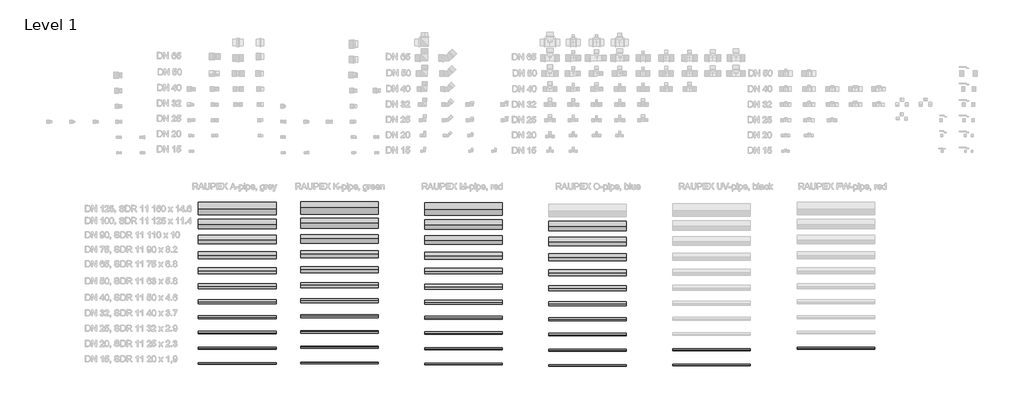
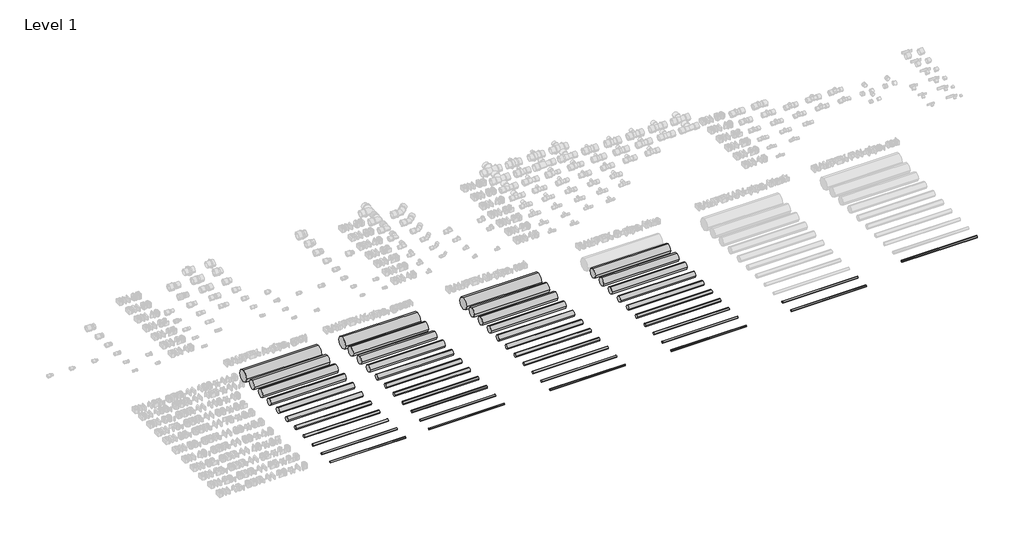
# One storey, part 1 of 15: 46 pipe segments.
"""IFC4 building model written with IfcOpenShell, lengths in millimetres."""

from ifc_helpers import new_model, si_unit, point, frame, frame_2d, origin, place, context, project, spatial, circle_curve, trimmed, segment, composite_curve, outline, extrude, element, save

model = new_model("IFC4")

# Units and contexts
model_context = context("Model", 3, world=origin())
ifc_project = project(units=[si_unit("LENGTHUNIT", "METRE", prefix="MILLI")], contexts=[model_context])

# Site, building, storey
site = spatial("IfcSite", under=ifc_project)
building = spatial("IfcBuilding", under=site)
storey = spatial("IfcBuildingStorey", under=building, Name="Level 1", Elevation=0.0)

# Pipe segments
placement = place(None, origin())
element("IfcPipeSegment", 1, ObjectType="RAUPEX-A Rohr, SDR11, grau bar", at=placement, inside=storey, context=model_context, shape_type="SweptSolid", body=[
    extrude(outline(composite_curve([segment(trimmed(circle_curve(frame_2d((-2300.9373535, 0.0)), 10.0), [point((-2310.9373535, 0.0))], [point((-2300.9373535, 10.0))], False, "CARTESIAN"), True, "CONTINUOUS"), segment(trimmed(circle_curve(frame_2d((-2300.9373535, 0.0)), 10.0), [point((-2300.9373535, 10.0))], [point((-2290.9373535, 0.0))], False, "CARTESIAN"), True, "CONTINUOUS"), segment(trimmed(circle_curve(frame_2d((-2300.9373535, 0.0)), 10.0), [point((-2290.9373535, 0.0))], [point((-2300.9373535, -10.0))], False, "CARTESIAN"), True, "CONTINUOUS"), segment(trimmed(circle_curve(frame_2d((-2300.9373535, 0.0)), 10.0), [point((-2300.9373535, -10.0))], [point((-2310.9373535, 0.0))], False, "CARTESIAN"), True, "CONTINUOUS")], self_intersect=False)), frame((11592.3595402, 0.0, 0.0), z_axis=(1.0, 0.0, 0.0), x_axis=(0.0, 1.0, 0.0)), (0.0, 0.0, 1.0), 1000.0),
])
element("IfcPipeSegment", 2, ObjectType="RAUPEX-A Rohr, SDR11, grau bar", at=placement, inside=storey, context=model_context, shape_type="SweptSolid", body=[
    extrude(outline(composite_curve([segment(trimmed(circle_curve(frame_2d((-2100.9373535, 0.0)), 12.5), [point((-2113.4373535, 0.0))], [point((-2100.9373535, 12.5))], False, "CARTESIAN"), True, "CONTINUOUS"), segment(trimmed(circle_curve(frame_2d((-2100.9373535, 0.0)), 12.5), [point((-2100.9373535, 12.5))], [point((-2088.4373535, 0.0))], False, "CARTESIAN"), True, "CONTINUOUS"), segment(trimmed(circle_curve(frame_2d((-2100.9373535, 0.0)), 12.5), [point((-2088.4373535, 0.0))], [point((-2100.9373535, -12.5))], False, "CARTESIAN"), True, "CONTINUOUS"), segment(trimmed(circle_curve(frame_2d((-2100.9373535, 0.0)), 12.5), [point((-2100.9373535, -12.5))], [point((-2113.4373535, 0.0))], False, "CARTESIAN"), True, "CONTINUOUS")], self_intersect=False)), frame((11592.3595402, 0.0, 0.0), z_axis=(1.0, 0.0, 0.0), x_axis=(0.0, 1.0, 0.0)), (0.0, 0.0, 1.0), 1000.0),
])
element("IfcPipeSegment", 3, ObjectType="RAUPEX-A Rohr, SDR11, grau bar", at=placement, inside=storey, context=model_context, shape_type="SweptSolid", body=[
    extrude(outline(composite_curve([segment(trimmed(circle_curve(frame_2d((-1900.9373535, 0.0)), 16.0), [point((-1916.9373535, 0.0))], [point((-1900.9373535, 16.0))], False, "CARTESIAN"), True, "CONTINUOUS"), segment(trimmed(circle_curve(frame_2d((-1900.9373535, 0.0)), 16.0), [point((-1900.9373535, 16.0))], [point((-1884.9373535, 0.0))], False, "CARTESIAN"), True, "CONTINUOUS"), segment(trimmed(circle_curve(frame_2d((-1900.9373535, 0.0)), 16.0), [point((-1884.9373535, 0.0))], [point((-1900.9373535, -16.0))], False, "CARTESIAN"), True, "CONTINUOUS"), segment(trimmed(circle_curve(frame_2d((-1900.9373535, 0.0)), 16.0), [point((-1900.9373535, -16.0))], [point((-1916.9373535, 0.0))], False, "CARTESIAN"), True, "CONTINUOUS")], self_intersect=False)), frame((11592.3595402, 0.0, 0.0), z_axis=(1.0, 0.0, 0.0), x_axis=(0.0, 1.0, 0.0)), (0.0, 0.0, 1.0), 1000.0),
])
element("IfcPipeSegment", 4, ObjectType="RAUPEX-A Rohr, SDR11, grau bar", at=placement, inside=storey, context=model_context, shape_type="SweptSolid", body=[
    extrude(outline(composite_curve([segment(trimmed(circle_curve(frame_2d((-1700.9373535, 0.0)), 20.0), [point((-1720.9373535, 0.0))], [point((-1700.9373535, 20.0))], False, "CARTESIAN"), True, "CONTINUOUS"), segment(trimmed(circle_curve(frame_2d((-1700.9373535, 0.0)), 20.0), [point((-1700.9373535, 20.0))], [point((-1680.9373535, 0.0))], False, "CARTESIAN"), True, "CONTINUOUS"), segment(trimmed(circle_curve(frame_2d((-1700.9373535, 0.0)), 20.0), [point((-1680.9373535, 0.0))], [point((-1700.9373535, -20.0))], False, "CARTESIAN"), True, "CONTINUOUS"), segment(trimmed(circle_curve(frame_2d((-1700.9373535, 0.0)), 20.0), [point((-1700.9373535, -20.0))], [point((-1720.9373535, 0.0))], False, "CARTESIAN"), True, "CONTINUOUS")], self_intersect=False)), frame((11592.3595402, 0.0, 0.0), z_axis=(1.0, 0.0, 0.0), x_axis=(0.0, 1.0, 0.0)), (0.0, 0.0, 1.0), 1000.0),
])
element("IfcPipeSegment", 5, ObjectType="RAUPEX-A Rohr, SDR11, grau bar", at=placement, inside=storey, context=model_context, shape_type="SweptSolid", body=[
    extrude(outline(composite_curve([segment(trimmed(circle_curve(frame_2d((-1500.9373535, 0.0)), 25.0), [point((-1525.9373535, 0.0))], [point((-1500.9373535, 25.0))], False, "CARTESIAN"), True, "CONTINUOUS"), segment(trimmed(circle_curve(frame_2d((-1500.9373535, 0.0)), 25.0), [point((-1500.9373535, 25.0))], [point((-1475.9373535, 0.0))], False, "CARTESIAN"), True, "CONTINUOUS"), segment(trimmed(circle_curve(frame_2d((-1500.9373535, 0.0)), 25.0), [point((-1475.9373535, 0.0))], [point((-1500.9373535, -25.0))], False, "CARTESIAN"), True, "CONTINUOUS"), segment(trimmed(circle_curve(frame_2d((-1500.9373535, 0.0)), 25.0), [point((-1500.9373535, -25.0))], [point((-1525.9373535, 0.0))], False, "CARTESIAN"), True, "CONTINUOUS")], self_intersect=False)), frame((11592.3595402, 0.0, 0.0), z_axis=(1.0, 0.0, 0.0), x_axis=(0.0, 1.0, 0.0)), (0.0, 0.0, 1.0), 1000.0),
])
element("IfcPipeSegment", 6, ObjectType="RAUPEX-A Rohr, SDR11, grau bar", at=placement, inside=storey, context=model_context, shape_type="SweptSolid", body=[
    extrude(outline(composite_curve([segment(trimmed(circle_curve(frame_2d((-1300.9373535, 0.0)), 31.5), [point((-1332.4373535, 0.0))], [point((-1300.9373535, 31.5))], False, "CARTESIAN"), True, "CONTINUOUS"), segment(trimmed(circle_curve(frame_2d((-1300.9373535, 0.0)), 31.5), [point((-1300.9373535, 31.5))], [point((-1269.4373535, 0.0))], False, "CARTESIAN"), True, "CONTINUOUS"), segment(trimmed(circle_curve(frame_2d((-1300.9373535, 0.0)), 31.5), [point((-1269.4373535, 0.0))], [point((-1300.9373535, -31.5))], False, "CARTESIAN"), True, "CONTINUOUS"), segment(trimmed(circle_curve(frame_2d((-1300.9373535, 0.0)), 31.5), [point((-1300.9373535, -31.5))], [point((-1332.4373535, 0.0))], False, "CARTESIAN"), True, "CONTINUOUS")], self_intersect=False)), frame((11592.3595402, 0.0, 0.0), z_axis=(1.0, 0.0, 0.0), x_axis=(0.0, 1.0, 0.0)), (0.0, 0.0, 1.0), 1000.0),
])
element("IfcPipeSegment", 7, ObjectType="RAUPEX-A Rohr, SDR11, grau bar", at=placement, inside=storey, context=model_context, shape_type="SweptSolid", body=[
    extrude(outline(composite_curve([segment(trimmed(circle_curve(frame_2d((-1100.9373535, 0.0)), 37.5), [point((-1138.4373535, 0.0))], [point((-1100.9373535, 37.5))], False, "CARTESIAN"), True, "CONTINUOUS"), segment(trimmed(circle_curve(frame_2d((-1100.9373535, 0.0)), 37.5), [point((-1100.9373535, 37.5))], [point((-1063.4373535, 0.0))], False, "CARTESIAN"), True, "CONTINUOUS"), segment(trimmed(circle_curve(frame_2d((-1100.9373535, 0.0)), 37.5), [point((-1063.4373535, 0.0))], [point((-1100.9373535, -37.5))], False, "CARTESIAN"), True, "CONTINUOUS"), segment(trimmed(circle_curve(frame_2d((-1100.9373535, 0.0)), 37.5), [point((-1100.9373535, -37.5))], [point((-1138.4373535, 0.0))], False, "CARTESIAN"), True, "CONTINUOUS")], self_intersect=False)), frame((11592.3595402, 0.0, 0.0), z_axis=(1.0, 0.0, 0.0), x_axis=(0.0, 1.0, 0.0)), (0.0, 0.0, 1.0), 1000.0),
])
element("IfcPipeSegment", 8, ObjectType="RAUPEX-A Rohr, SDR11, grau bar", at=placement, inside=storey, context=model_context, shape_type="SweptSolid", body=[
    extrude(outline(composite_curve([segment(trimmed(circle_curve(frame_2d((-900.9373535, 0.0)), 45.0), [point((-945.9373535, 0.0))], [point((-900.9373535, 45.0))], False, "CARTESIAN"), True, "CONTINUOUS"), segment(trimmed(circle_curve(frame_2d((-900.9373535, 0.0)), 45.0), [point((-900.9373535, 45.0))], [point((-855.9373535, 0.0))], False, "CARTESIAN"), True, "CONTINUOUS"), segment(trimmed(circle_curve(frame_2d((-900.9373535, 0.0)), 45.0), [point((-855.9373535, 0.0))], [point((-900.9373535, -45.0))], False, "CARTESIAN"), True, "CONTINUOUS"), segment(trimmed(circle_curve(frame_2d((-900.9373535, 0.0)), 45.0), [point((-900.9373535, -45.0))], [point((-945.9373535, 0.0))], False, "CARTESIAN"), True, "CONTINUOUS")], self_intersect=False)), frame((11592.3595402, 0.0, 0.0), z_axis=(1.0, 0.0, 0.0), x_axis=(0.0, 1.0, 0.0)), (0.0, 0.0, 1.0), 1000.0),
])
element("IfcPipeSegment", 9, ObjectType="RAUPEX-A Rohr, SDR11, grau bar", at=placement, inside=storey, context=model_context, shape_type="SweptSolid", body=[
    extrude(outline(composite_curve([segment(trimmed(circle_curve(frame_2d((-700.9373535, 0.0)), 55.0), [point((-755.9373535, 0.0))], [point((-700.9373535, 55.0))], False, "CARTESIAN"), True, "CONTINUOUS"), segment(trimmed(circle_curve(frame_2d((-700.9373535, 0.0)), 55.0), [point((-700.9373535, 55.0))], [point((-645.9373535, 0.0))], False, "CARTESIAN"), True, "CONTINUOUS"), segment(trimmed(circle_curve(frame_2d((-700.9373535, 0.0)), 55.0), [point((-645.9373535, 0.0))], [point((-700.9373535, -55.0))], False, "CARTESIAN"), True, "CONTINUOUS"), segment(trimmed(circle_curve(frame_2d((-700.9373535, 0.0)), 55.0), [point((-700.9373535, -55.0))], [point((-755.9373535, 0.0))], False, "CARTESIAN"), True, "CONTINUOUS")], self_intersect=False)), frame((11592.3595402, 0.0, 0.0), z_axis=(1.0, 0.0, 0.0), x_axis=(0.0, 1.0, 0.0)), (0.0, 0.0, 1.0), 1000.0),
])
element("IfcPipeSegment", 10, ObjectType="RAUPEX-A Rohr, SDR11, grau bar", at=placement, inside=storey, context=model_context, shape_type="SweptSolid", body=[
    extrude(outline(composite_curve([segment(trimmed(circle_curve(frame_2d((-500.9373535, 0.0)), 62.5), [point((-563.4373535, 0.0))], [point((-500.9373535, 62.5))], False, "CARTESIAN"), True, "CONTINUOUS"), segment(trimmed(circle_curve(frame_2d((-500.9373535, 0.0)), 62.5), [point((-500.9373535, 62.5))], [point((-438.4373535, 0.0))], False, "CARTESIAN"), True, "CONTINUOUS"), segment(trimmed(circle_curve(frame_2d((-500.9373535, 0.0)), 62.5), [point((-438.4373535, 0.0))], [point((-500.9373535, -62.5))], False, "CARTESIAN"), True, "CONTINUOUS"), segment(trimmed(circle_curve(frame_2d((-500.9373535, 0.0)), 62.5), [point((-500.9373535, -62.5))], [point((-563.4373535, 0.0))], False, "CARTESIAN"), True, "CONTINUOUS")], self_intersect=False)), frame((11592.3595402, 0.0, 0.0), z_axis=(1.0, 0.0, 0.0), x_axis=(0.0, 1.0, 0.0)), (0.0, 0.0, 1.0), 1000.0),
])
element("IfcPipeSegment", 11, ObjectType="RAUPEX-A Rohr, SDR11, grau bar", at=placement, inside=storey, context=model_context, shape_type="SweptSolid", body=[
    extrude(outline(composite_curve([segment(trimmed(circle_curve(frame_2d((-300.9373535, 0.0)), 80.0), [point((-380.9373535, 0.0))], [point((-300.9373535, 80.0))], False, "CARTESIAN"), True, "CONTINUOUS"), segment(trimmed(circle_curve(frame_2d((-300.9373535, 0.0)), 80.0), [point((-300.9373535, 80.0))], [point((-220.9373535, 0.0))], False, "CARTESIAN"), True, "CONTINUOUS"), segment(trimmed(circle_curve(frame_2d((-300.9373535, 0.0)), 80.0), [point((-220.9373535, 0.0))], [point((-300.9373535, -80.0))], False, "CARTESIAN"), True, "CONTINUOUS"), segment(trimmed(circle_curve(frame_2d((-300.9373535, 0.0)), 80.0), [point((-300.9373535, -80.0))], [point((-380.9373535, 0.0))], False, "CARTESIAN"), True, "CONTINUOUS")], self_intersect=False)), frame((11592.3595402, 0.0, 0.0), z_axis=(1.0, 0.0, 0.0), x_axis=(0.0, 1.0, 0.0)), (0.0, 0.0, 1.0), 1000.0),
])
element("IfcPipeSegment", 12, ObjectType="RAUPEX-K Rohr, SDR11, grün bar", at=placement, inside=storey, context=model_context, shape_type="SweptSolid", body=[
    extrude(outline(composite_curve([segment(trimmed(circle_curve(frame_2d((-2290.9373535, 0.0)), 10.0), [point((-2300.9373535, 0.0))], [point((-2290.9373535, 10.0))], False, "CARTESIAN"), True, "CONTINUOUS"), segment(trimmed(circle_curve(frame_2d((-2290.9373535, 0.0)), 10.0), [point((-2290.9373535, 10.0))], [point((-2280.9373535, 0.0))], False, "CARTESIAN"), True, "CONTINUOUS"), segment(trimmed(circle_curve(frame_2d((-2290.9373535, 0.0)), 10.0), [point((-2280.9373535, 0.0))], [point((-2290.9373535, -10.0))], False, "CARTESIAN"), True, "CONTINUOUS"), segment(trimmed(circle_curve(frame_2d((-2290.9373535, 0.0)), 10.0), [point((-2290.9373535, -10.0))], [point((-2300.9373535, 0.0))], False, "CARTESIAN"), True, "CONTINUOUS")], self_intersect=False)), frame((12912.3595402, 0.0, 0.0), z_axis=(1.0, 0.0, 0.0), x_axis=(0.0, 1.0, 0.0)), (0.0, 0.0, 1.0), 1000.0),
])
element("IfcPipeSegment", 13, ObjectType="RAUPEX-K Rohr, SDR11, grün bar", at=placement, inside=storey, context=model_context, shape_type="SweptSolid", body=[
    extrude(outline(composite_curve([segment(trimmed(circle_curve(frame_2d((-2090.9373535, 0.0)), 12.5), [point((-2103.4373535, 0.0))], [point((-2090.9373535, 12.5))], False, "CARTESIAN"), True, "CONTINUOUS"), segment(trimmed(circle_curve(frame_2d((-2090.9373535, 0.0)), 12.5), [point((-2090.9373535, 12.5))], [point((-2078.4373535, 0.0))], False, "CARTESIAN"), True, "CONTINUOUS"), segment(trimmed(circle_curve(frame_2d((-2090.9373535, 0.0)), 12.5), [point((-2078.4373535, 0.0))], [point((-2090.9373535, -12.5))], False, "CARTESIAN"), True, "CONTINUOUS"), segment(trimmed(circle_curve(frame_2d((-2090.9373535, 0.0)), 12.5), [point((-2090.9373535, -12.5))], [point((-2103.4373535, 0.0))], False, "CARTESIAN"), True, "CONTINUOUS")], self_intersect=False)), frame((12912.3595402, 0.0, 0.0), z_axis=(1.0, 0.0, 0.0), x_axis=(0.0, 1.0, 0.0)), (0.0, 0.0, 1.0), 1000.0),
])
element("IfcPipeSegment", 14, ObjectType="RAUPEX-K Rohr, SDR11, grün bar", at=placement, inside=storey, context=model_context, shape_type="SweptSolid", body=[
    extrude(outline(composite_curve([segment(trimmed(circle_curve(frame_2d((-1890.9373535, 0.0)), 16.0), [point((-1906.9373535, 0.0))], [point((-1890.9373535, 16.0))], False, "CARTESIAN"), True, "CONTINUOUS"), segment(trimmed(circle_curve(frame_2d((-1890.9373535, 0.0)), 16.0), [point((-1890.9373535, 16.0))], [point((-1874.9373535, 0.0))], False, "CARTESIAN"), True, "CONTINUOUS"), segment(trimmed(circle_curve(frame_2d((-1890.9373535, 0.0)), 16.0), [point((-1874.9373535, 0.0))], [point((-1890.9373535, -16.0))], False, "CARTESIAN"), True, "CONTINUOUS"), segment(trimmed(circle_curve(frame_2d((-1890.9373535, 0.0)), 16.0), [point((-1890.9373535, -16.0))], [point((-1906.9373535, 0.0))], False, "CARTESIAN"), True, "CONTINUOUS")], self_intersect=False)), frame((12912.3595402, 0.0, 0.0), z_axis=(1.0, 0.0, 0.0), x_axis=(0.0, 1.0, 0.0)), (0.0, 0.0, 1.0), 1000.0),
])
element("IfcPipeSegment", 15, ObjectType="RAUPEX-K Rohr, SDR11, grün bar", at=placement, inside=storey, context=model_context, shape_type="SweptSolid", body=[
    extrude(outline(composite_curve([segment(trimmed(circle_curve(frame_2d((-1690.9373535, 0.0)), 20.0), [point((-1710.9373535, 0.0))], [point((-1690.9373535, 20.0))], False, "CARTESIAN"), True, "CONTINUOUS"), segment(trimmed(circle_curve(frame_2d((-1690.9373535, 0.0)), 20.0), [point((-1690.9373535, 20.0))], [point((-1670.9373535, 0.0))], False, "CARTESIAN"), True, "CONTINUOUS"), segment(trimmed(circle_curve(frame_2d((-1690.9373535, 0.0)), 20.0), [point((-1670.9373535, 0.0))], [point((-1690.9373535, -20.0))], False, "CARTESIAN"), True, "CONTINUOUS"), segment(trimmed(circle_curve(frame_2d((-1690.9373535, 0.0)), 20.0), [point((-1690.9373535, -20.0))], [point((-1710.9373535, 0.0))], False, "CARTESIAN"), True, "CONTINUOUS")], self_intersect=False)), frame((12912.3595402, 0.0, 0.0), z_axis=(1.0, 0.0, 0.0), x_axis=(0.0, 1.0, 0.0)), (0.0, 0.0, 1.0), 1000.0),
])
element("IfcPipeSegment", 16, ObjectType="RAUPEX-K Rohr, SDR11, grün bar", at=placement, inside=storey, context=model_context, shape_type="SweptSolid", body=[
    extrude(outline(composite_curve([segment(trimmed(circle_curve(frame_2d((-1490.9373535, 0.0)), 25.0), [point((-1515.9373535, 0.0))], [point((-1490.9373535, 25.0))], False, "CARTESIAN"), True, "CONTINUOUS"), segment(trimmed(circle_curve(frame_2d((-1490.9373535, 0.0)), 25.0), [point((-1490.9373535, 25.0))], [point((-1465.9373535, 0.0))], False, "CARTESIAN"), True, "CONTINUOUS"), segment(trimmed(circle_curve(frame_2d((-1490.9373535, 0.0)), 25.0), [point((-1465.9373535, 0.0))], [point((-1490.9373535, -25.0))], False, "CARTESIAN"), True, "CONTINUOUS"), segment(trimmed(circle_curve(frame_2d((-1490.9373535, 0.0)), 25.0), [point((-1490.9373535, -25.0))], [point((-1515.9373535, 0.0))], False, "CARTESIAN"), True, "CONTINUOUS")], self_intersect=False)), frame((12912.3595402, 0.0, 0.0), z_axis=(1.0, 0.0, 0.0), x_axis=(0.0, 1.0, 0.0)), (0.0, 0.0, 1.0), 1000.0),
])
element("IfcPipeSegment", 17, ObjectType="RAUPEX-K Rohr, SDR11, grün bar", at=placement, inside=storey, context=model_context, shape_type="SweptSolid", body=[
    extrude(outline(composite_curve([segment(trimmed(circle_curve(frame_2d((-1290.9373535, 0.0)), 31.5), [point((-1322.4373535, 0.0))], [point((-1290.9373535, 31.5))], False, "CARTESIAN"), True, "CONTINUOUS"), segment(trimmed(circle_curve(frame_2d((-1290.9373535, 0.0)), 31.5), [point((-1290.9373535, 31.5))], [point((-1259.4373535, 0.0))], False, "CARTESIAN"), True, "CONTINUOUS"), segment(trimmed(circle_curve(frame_2d((-1290.9373535, 0.0)), 31.5), [point((-1259.4373535, 0.0))], [point((-1290.9373535, -31.5))], False, "CARTESIAN"), True, "CONTINUOUS"), segment(trimmed(circle_curve(frame_2d((-1290.9373535, 0.0)), 31.5), [point((-1290.9373535, -31.5))], [point((-1322.4373535, 0.0))], False, "CARTESIAN"), True, "CONTINUOUS")], self_intersect=False)), frame((12912.3595402, 0.0, 0.0), z_axis=(1.0, 0.0, 0.0), x_axis=(0.0, 1.0, 0.0)), (0.0, 0.0, 1.0), 1000.0),
])
element("IfcPipeSegment", 18, ObjectType="RAUPEX-K Rohr, SDR11, grün bar", at=placement, inside=storey, context=model_context, shape_type="SweptSolid", body=[
    extrude(outline(composite_curve([segment(trimmed(circle_curve(frame_2d((-1090.9373535, 0.0)), 37.5), [point((-1128.4373535, 0.0))], [point((-1090.9373535, 37.5))], False, "CARTESIAN"), True, "CONTINUOUS"), segment(trimmed(circle_curve(frame_2d((-1090.9373535, 0.0)), 37.5), [point((-1090.9373535, 37.5))], [point((-1053.4373535, 0.0))], False, "CARTESIAN"), True, "CONTINUOUS"), segment(trimmed(circle_curve(frame_2d((-1090.9373535, 0.0)), 37.5), [point((-1053.4373535, 0.0))], [point((-1090.9373535, -37.5))], False, "CARTESIAN"), True, "CONTINUOUS"), segment(trimmed(circle_curve(frame_2d((-1090.9373535, 0.0)), 37.5), [point((-1090.9373535, -37.5))], [point((-1128.4373535, 0.0))], False, "CARTESIAN"), True, "CONTINUOUS")], self_intersect=False)), frame((12912.3595402, 0.0, 0.0), z_axis=(1.0, 0.0, 0.0), x_axis=(0.0, 1.0, 0.0)), (0.0, 0.0, 1.0), 1000.0),
])
element("IfcPipeSegment", 19, ObjectType="RAUPEX-K Rohr, SDR11, grün bar", at=placement, inside=storey, context=model_context, shape_type="SweptSolid", body=[
    extrude(outline(composite_curve([segment(trimmed(circle_curve(frame_2d((-890.9373535, 0.0)), 45.0), [point((-935.9373535, 0.0))], [point((-890.9373535, 45.0))], False, "CARTESIAN"), True, "CONTINUOUS"), segment(trimmed(circle_curve(frame_2d((-890.9373535, 0.0)), 45.0), [point((-890.9373535, 45.0))], [point((-845.9373535, 0.0))], False, "CARTESIAN"), True, "CONTINUOUS"), segment(trimmed(circle_curve(frame_2d((-890.9373535, 0.0)), 45.0), [point((-845.9373535, 0.0))], [point((-890.9373535, -45.0))], False, "CARTESIAN"), True, "CONTINUOUS"), segment(trimmed(circle_curve(frame_2d((-890.9373535, 0.0)), 45.0), [point((-890.9373535, -45.0))], [point((-935.9373535, 0.0))], False, "CARTESIAN"), True, "CONTINUOUS")], self_intersect=False)), frame((12912.3595402, 0.0, 0.0), z_axis=(1.0, 0.0, 0.0), x_axis=(0.0, 1.0, 0.0)), (0.0, 0.0, 1.0), 1000.0),
])
element("IfcPipeSegment", 20, ObjectType="RAUPEX-K Rohr, SDR11, grün bar", at=placement, inside=storey, context=model_context, shape_type="SweptSolid", body=[
    extrude(outline(composite_curve([segment(trimmed(circle_curve(frame_2d((-690.9373535, 0.0)), 55.0), [point((-745.9373535, 0.0))], [point((-690.9373535, 55.0))], False, "CARTESIAN"), True, "CONTINUOUS"), segment(trimmed(circle_curve(frame_2d((-690.9373535, 0.0)), 55.0), [point((-690.9373535, 55.0))], [point((-635.9373535, 0.0))], False, "CARTESIAN"), True, "CONTINUOUS"), segment(trimmed(circle_curve(frame_2d((-690.9373535, 0.0)), 55.0), [point((-635.9373535, 0.0))], [point((-690.9373535, -55.0))], False, "CARTESIAN"), True, "CONTINUOUS"), segment(trimmed(circle_curve(frame_2d((-690.9373535, 0.0)), 55.0), [point((-690.9373535, -55.0))], [point((-745.9373535, 0.0))], False, "CARTESIAN"), True, "CONTINUOUS")], self_intersect=False)), frame((12912.3595402, 0.0, 0.0), z_axis=(1.0, 0.0, 0.0), x_axis=(0.0, 1.0, 0.0)), (0.0, 0.0, 1.0), 1000.0),
])
element("IfcPipeSegment", 21, ObjectType="RAUPEX-K Rohr, SDR11, grün bar", at=placement, inside=storey, context=model_context, shape_type="SweptSolid", body=[
    extrude(outline(composite_curve([segment(trimmed(circle_curve(frame_2d((-490.9373535, 0.0)), 62.5), [point((-553.4373535, 0.0))], [point((-490.9373535, 62.5))], False, "CARTESIAN"), True, "CONTINUOUS"), segment(trimmed(circle_curve(frame_2d((-490.9373535, 0.0)), 62.5), [point((-490.9373535, 62.5))], [point((-428.4373535, 0.0))], False, "CARTESIAN"), True, "CONTINUOUS"), segment(trimmed(circle_curve(frame_2d((-490.9373535, 0.0)), 62.5), [point((-428.4373535, 0.0))], [point((-490.9373535, -62.5))], False, "CARTESIAN"), True, "CONTINUOUS"), segment(trimmed(circle_curve(frame_2d((-490.9373535, 0.0)), 62.5), [point((-490.9373535, -62.5))], [point((-553.4373535, 0.0))], False, "CARTESIAN"), True, "CONTINUOUS")], self_intersect=False)), frame((12912.3595402, 0.0, 0.0), z_axis=(1.0, 0.0, 0.0), x_axis=(0.0, 1.0, 0.0)), (0.0, 0.0, 1.0), 1000.0),
])
element("IfcPipeSegment", 22, ObjectType="RAUPEX-K Rohr, SDR11, grün bar", at=placement, inside=storey, context=model_context, shape_type="SweptSolid", body=[
    extrude(outline(composite_curve([segment(trimmed(circle_curve(frame_2d((-290.9373535, 0.0)), 80.0), [point((-370.9373535, 0.0))], [point((-290.9373535, 80.0))], False, "CARTESIAN"), True, "CONTINUOUS"), segment(trimmed(circle_curve(frame_2d((-290.9373535, 0.0)), 80.0), [point((-290.9373535, 80.0))], [point((-210.9373535, 0.0))], False, "CARTESIAN"), True, "CONTINUOUS"), segment(trimmed(circle_curve(frame_2d((-290.9373535, 0.0)), 80.0), [point((-210.9373535, 0.0))], [point((-290.9373535, -80.0))], False, "CARTESIAN"), True, "CONTINUOUS"), segment(trimmed(circle_curve(frame_2d((-290.9373535, 0.0)), 80.0), [point((-290.9373535, -80.0))], [point((-370.9373535, 0.0))], False, "CARTESIAN"), True, "CONTINUOUS")], self_intersect=False)), frame((12912.3595402, 0.0, 0.0), z_axis=(1.0, 0.0, 0.0), x_axis=(0.0, 1.0, 0.0)), (0.0, 0.0, 1.0), 1000.0),
])
element("IfcPipeSegment", 23, ObjectType="RAUPEX-M Rohr, SDR11, rot bar", at=placement, inside=storey, context=model_context, shape_type="SweptSolid", body=[
    extrude(outline(composite_curve([segment(trimmed(circle_curve(frame_2d((-2306.9373535, 0.0)), 10.0), [point((-2316.9373535, 0.0))], [point((-2306.9373535, 10.0))], False, "CARTESIAN"), True, "CONTINUOUS"), segment(trimmed(circle_curve(frame_2d((-2306.9373535, 0.0)), 10.0), [point((-2306.9373535, 10.0))], [point((-2296.9373535, 0.0))], False, "CARTESIAN"), True, "CONTINUOUS"), segment(trimmed(circle_curve(frame_2d((-2306.9373535, 0.0)), 10.0), [point((-2296.9373535, 0.0))], [point((-2306.9373535, -10.0))], False, "CARTESIAN"), True, "CONTINUOUS"), segment(trimmed(circle_curve(frame_2d((-2306.9373535, 0.0)), 10.0), [point((-2306.9373535, -10.0))], [point((-2316.9373535, 0.0))], False, "CARTESIAN"), True, "CONTINUOUS")], self_intersect=False)), frame((14512.3595402, 0.0, 0.0), z_axis=(1.0, 0.0, 0.0), x_axis=(0.0, 1.0, 0.0)), (0.0, 0.0, 1.0), 1000.0),
])
element("IfcPipeSegment", 24, ObjectType="RAUPEX-M Rohr, SDR11, rot bar", at=placement, inside=storey, context=model_context, shape_type="SweptSolid", body=[
    extrude(outline(composite_curve([segment(trimmed(circle_curve(frame_2d((-2106.9373535, 0.0)), 12.5), [point((-2119.4373535, 0.0))], [point((-2106.9373535, 12.5))], False, "CARTESIAN"), True, "CONTINUOUS"), segment(trimmed(circle_curve(frame_2d((-2106.9373535, 0.0)), 12.5), [point((-2106.9373535, 12.5))], [point((-2094.4373535, 0.0))], False, "CARTESIAN"), True, "CONTINUOUS"), segment(trimmed(circle_curve(frame_2d((-2106.9373535, 0.0)), 12.5), [point((-2094.4373535, 0.0))], [point((-2106.9373535, -12.5))], False, "CARTESIAN"), True, "CONTINUOUS"), segment(trimmed(circle_curve(frame_2d((-2106.9373535, 0.0)), 12.5), [point((-2106.9373535, -12.5))], [point((-2119.4373535, 0.0))], False, "CARTESIAN"), True, "CONTINUOUS")], self_intersect=False)), frame((14512.3595402, 0.0, 0.0), z_axis=(1.0, 0.0, 0.0), x_axis=(0.0, 1.0, 0.0)), (0.0, 0.0, 1.0), 1000.0),
])
element("IfcPipeSegment", 25, ObjectType="RAUPEX-M Rohr, SDR11, rot bar", at=placement, inside=storey, context=model_context, shape_type="SweptSolid", body=[
    extrude(outline(composite_curve([segment(trimmed(circle_curve(frame_2d((-1906.9373535, 0.0)), 16.0), [point((-1922.9373535, 0.0))], [point((-1906.9373535, 16.0))], False, "CARTESIAN"), True, "CONTINUOUS"), segment(trimmed(circle_curve(frame_2d((-1906.9373535, 0.0)), 16.0), [point((-1906.9373535, 16.0))], [point((-1890.9373535, 0.0))], False, "CARTESIAN"), True, "CONTINUOUS"), segment(trimmed(circle_curve(frame_2d((-1906.9373535, 0.0)), 16.0), [point((-1890.9373535, 0.0))], [point((-1906.9373535, -16.0))], False, "CARTESIAN"), True, "CONTINUOUS"), segment(trimmed(circle_curve(frame_2d((-1906.9373535, 0.0)), 16.0), [point((-1906.9373535, -16.0))], [point((-1922.9373535, 0.0))], False, "CARTESIAN"), True, "CONTINUOUS")], self_intersect=False)), frame((14512.3595402, 0.0, 0.0), z_axis=(1.0, 0.0, 0.0), x_axis=(0.0, 1.0, 0.0)), (0.0, 0.0, 1.0), 1000.0),
])
element("IfcPipeSegment", 26, ObjectType="RAUPEX-M Rohr, SDR11, rot bar", at=placement, inside=storey, context=model_context, shape_type="SweptSolid", body=[
    extrude(outline(composite_curve([segment(trimmed(circle_curve(frame_2d((-1706.9373535, 0.0)), 20.0), [point((-1726.9373535, 0.0))], [point((-1706.9373535, 20.0))], False, "CARTESIAN"), True, "CONTINUOUS"), segment(trimmed(circle_curve(frame_2d((-1706.9373535, 0.0)), 20.0), [point((-1706.9373535, 20.0))], [point((-1686.9373535, 0.0))], False, "CARTESIAN"), True, "CONTINUOUS"), segment(trimmed(circle_curve(frame_2d((-1706.9373535, 0.0)), 20.0), [point((-1686.9373535, 0.0))], [point((-1706.9373535, -20.0))], False, "CARTESIAN"), True, "CONTINUOUS"), segment(trimmed(circle_curve(frame_2d((-1706.9373535, 0.0)), 20.0), [point((-1706.9373535, -20.0))], [point((-1726.9373535, 0.0))], False, "CARTESIAN"), True, "CONTINUOUS")], self_intersect=False)), frame((14512.3595402, 0.0, 0.0), z_axis=(1.0, 0.0, 0.0), x_axis=(0.0, 1.0, 0.0)), (0.0, 0.0, 1.0), 1000.0),
])
element("IfcPipeSegment", 27, ObjectType="RAUPEX-M Rohr, SDR11, rot bar", at=placement, inside=storey, context=model_context, shape_type="SweptSolid", body=[
    extrude(outline(composite_curve([segment(trimmed(circle_curve(frame_2d((-1506.9373535, 0.0)), 25.0), [point((-1531.9373535, 0.0))], [point((-1506.9373535, 25.0))], False, "CARTESIAN"), True, "CONTINUOUS"), segment(trimmed(circle_curve(frame_2d((-1506.9373535, 0.0)), 25.0), [point((-1506.9373535, 25.0))], [point((-1481.9373535, 0.0))], False, "CARTESIAN"), True, "CONTINUOUS"), segment(trimmed(circle_curve(frame_2d((-1506.9373535, 0.0)), 25.0), [point((-1481.9373535, 0.0))], [point((-1506.9373535, -25.0))], False, "CARTESIAN"), True, "CONTINUOUS"), segment(trimmed(circle_curve(frame_2d((-1506.9373535, 0.0)), 25.0), [point((-1506.9373535, -25.0))], [point((-1531.9373535, 0.0))], False, "CARTESIAN"), True, "CONTINUOUS")], self_intersect=False)), frame((14512.3595402, 0.0, 0.0), z_axis=(1.0, 0.0, 0.0), x_axis=(0.0, 1.0, 0.0)), (0.0, 0.0, 1.0), 1000.0),
])
element("IfcPipeSegment", 28, ObjectType="RAUPEX-M Rohr, SDR11, rot bar", at=placement, inside=storey, context=model_context, shape_type="SweptSolid", body=[
    extrude(outline(composite_curve([segment(trimmed(circle_curve(frame_2d((-1306.9373535, 0.0)), 31.5), [point((-1338.4373535, 0.0))], [point((-1306.9373535, 31.5))], False, "CARTESIAN"), True, "CONTINUOUS"), segment(trimmed(circle_curve(frame_2d((-1306.9373535, 0.0)), 31.5), [point((-1306.9373535, 31.5))], [point((-1275.4373535, 0.0))], False, "CARTESIAN"), True, "CONTINUOUS"), segment(trimmed(circle_curve(frame_2d((-1306.9373535, 0.0)), 31.5), [point((-1275.4373535, 0.0))], [point((-1306.9373535, -31.5))], False, "CARTESIAN"), True, "CONTINUOUS"), segment(trimmed(circle_curve(frame_2d((-1306.9373535, 0.0)), 31.5), [point((-1306.9373535, -31.5))], [point((-1338.4373535, 0.0))], False, "CARTESIAN"), True, "CONTINUOUS")], self_intersect=False)), frame((14512.3595402, 0.0, 0.0), z_axis=(1.0, 0.0, 0.0), x_axis=(0.0, 1.0, 0.0)), (0.0, 0.0, 1.0), 1000.0),
])
element("IfcPipeSegment", 29, ObjectType="RAUPEX-M Rohr, SDR11, rot bar", at=placement, inside=storey, context=model_context, shape_type="SweptSolid", body=[
    extrude(outline(composite_curve([segment(trimmed(circle_curve(frame_2d((-1106.9373535, 0.0)), 37.5), [point((-1144.4373535, 0.0))], [point((-1106.9373535, 37.5))], False, "CARTESIAN"), True, "CONTINUOUS"), segment(trimmed(circle_curve(frame_2d((-1106.9373535, 0.0)), 37.5), [point((-1106.9373535, 37.5))], [point((-1069.4373535, 0.0))], False, "CARTESIAN"), True, "CONTINUOUS"), segment(trimmed(circle_curve(frame_2d((-1106.9373535, 0.0)), 37.5), [point((-1069.4373535, 0.0))], [point((-1106.9373535, -37.5))], False, "CARTESIAN"), True, "CONTINUOUS"), segment(trimmed(circle_curve(frame_2d((-1106.9373535, 0.0)), 37.5), [point((-1106.9373535, -37.5))], [point((-1144.4373535, 0.0))], False, "CARTESIAN"), True, "CONTINUOUS")], self_intersect=False)), frame((14512.3595402, 0.0, 0.0), z_axis=(1.0, 0.0, 0.0), x_axis=(0.0, 1.0, 0.0)), (0.0, 0.0, 1.0), 1000.0),
])
element("IfcPipeSegment", 30, ObjectType="RAUPEX-M Rohr, SDR11, rot bar", at=placement, inside=storey, context=model_context, shape_type="SweptSolid", body=[
    extrude(outline(composite_curve([segment(trimmed(circle_curve(frame_2d((-906.9373535, 0.0)), 45.0), [point((-951.9373535, 0.0))], [point((-906.9373535, 45.0))], False, "CARTESIAN"), True, "CONTINUOUS"), segment(trimmed(circle_curve(frame_2d((-906.9373535, 0.0)), 45.0), [point((-906.9373535, 45.0))], [point((-861.9373535, 0.0))], False, "CARTESIAN"), True, "CONTINUOUS"), segment(trimmed(circle_curve(frame_2d((-906.9373535, 0.0)), 45.0), [point((-861.9373535, 0.0))], [point((-906.9373535, -45.0))], False, "CARTESIAN"), True, "CONTINUOUS"), segment(trimmed(circle_curve(frame_2d((-906.9373535, 0.0)), 45.0), [point((-906.9373535, -45.0))], [point((-951.9373535, 0.0))], False, "CARTESIAN"), True, "CONTINUOUS")], self_intersect=False)), frame((14512.3595402, 0.0, 0.0), z_axis=(1.0, 0.0, 0.0), x_axis=(0.0, 1.0, 0.0)), (0.0, 0.0, 1.0), 1000.0),
])
element("IfcPipeSegment", 31, ObjectType="RAUPEX-M Rohr, SDR11, rot bar", at=placement, inside=storey, context=model_context, shape_type="SweptSolid", body=[
    extrude(outline(composite_curve([segment(trimmed(circle_curve(frame_2d((-706.9373535, 0.0)), 55.0), [point((-761.9373535, 0.0))], [point((-706.9373535, 55.0))], False, "CARTESIAN"), True, "CONTINUOUS"), segment(trimmed(circle_curve(frame_2d((-706.9373535, 0.0)), 55.0), [point((-706.9373535, 55.0))], [point((-651.9373535, 0.0))], False, "CARTESIAN"), True, "CONTINUOUS"), segment(trimmed(circle_curve(frame_2d((-706.9373535, 0.0)), 55.0), [point((-651.9373535, 0.0))], [point((-706.9373535, -55.0))], False, "CARTESIAN"), True, "CONTINUOUS"), segment(trimmed(circle_curve(frame_2d((-706.9373535, 0.0)), 55.0), [point((-706.9373535, -55.0))], [point((-761.9373535, 0.0))], False, "CARTESIAN"), True, "CONTINUOUS")], self_intersect=False)), frame((14512.3595402, 0.0, 0.0), z_axis=(1.0, 0.0, 0.0), x_axis=(0.0, 1.0, 0.0)), (0.0, 0.0, 1.0), 1000.0),
])
element("IfcPipeSegment", 32, ObjectType="RAUPEX-M Rohr, SDR11, rot bar", at=placement, inside=storey, context=model_context, shape_type="SweptSolid", body=[
    extrude(outline(composite_curve([segment(trimmed(circle_curve(frame_2d((-506.9373535, 0.0)), 62.5), [point((-569.4373535, 0.0))], [point((-506.9373535, 62.5))], False, "CARTESIAN"), True, "CONTINUOUS"), segment(trimmed(circle_curve(frame_2d((-506.9373535, 0.0)), 62.5), [point((-506.9373535, 62.5))], [point((-444.4373535, 0.0))], False, "CARTESIAN"), True, "CONTINUOUS"), segment(trimmed(circle_curve(frame_2d((-506.9373535, 0.0)), 62.5), [point((-444.4373535, 0.0))], [point((-506.9373535, -62.5))], False, "CARTESIAN"), True, "CONTINUOUS"), segment(trimmed(circle_curve(frame_2d((-506.9373535, 0.0)), 62.5), [point((-506.9373535, -62.5))], [point((-569.4373535, 0.0))], False, "CARTESIAN"), True, "CONTINUOUS")], self_intersect=False)), frame((14512.3595402, 0.0, 0.0), z_axis=(1.0, 0.0, 0.0), x_axis=(0.0, 1.0, 0.0)), (0.0, 0.0, 1.0), 1000.0),
])
element("IfcPipeSegment", 33, ObjectType="RAUPEX-M Rohr, SDR11, rot bar", at=placement, inside=storey, context=model_context, shape_type="SweptSolid", body=[
    extrude(outline(composite_curve([segment(trimmed(circle_curve(frame_2d((-306.9373535, 0.0)), 80.0), [point((-386.9373535, 0.0))], [point((-306.9373535, 80.0))], False, "CARTESIAN"), True, "CONTINUOUS"), segment(trimmed(circle_curve(frame_2d((-306.9373535, 0.0)), 80.0), [point((-306.9373535, 80.0))], [point((-226.9373535, 0.0))], False, "CARTESIAN"), True, "CONTINUOUS"), segment(trimmed(circle_curve(frame_2d((-306.9373535, 0.0)), 80.0), [point((-226.9373535, 0.0))], [point((-306.9373535, -80.0))], False, "CARTESIAN"), True, "CONTINUOUS"), segment(trimmed(circle_curve(frame_2d((-306.9373535, 0.0)), 80.0), [point((-306.9373535, -80.0))], [point((-386.9373535, 0.0))], False, "CARTESIAN"), True, "CONTINUOUS")], self_intersect=False)), frame((14512.3595402, 0.0, 0.0), z_axis=(1.0, 0.0, 0.0), x_axis=(0.0, 1.0, 0.0)), (0.0, 0.0, 1.0), 1000.0),
])
element("IfcPipeSegment", 34, ObjectType="RAUPEX-O Rohr, SDR11, blau bar", at=placement, inside=storey, context=model_context, shape_type="SweptSolid", body=[
    extrude(outline(composite_curve([segment(trimmed(circle_curve(frame_2d((-2326.9373535, 0.0)), 10.0), [point((-2336.9373535, 0.0))], [point((-2326.9373535, 10.0))], False, "CARTESIAN"), True, "CONTINUOUS"), segment(trimmed(circle_curve(frame_2d((-2326.9373535, 0.0)), 10.0), [point((-2326.9373535, 10.0))], [point((-2316.9373535, 0.0))], False, "CARTESIAN"), True, "CONTINUOUS"), segment(trimmed(circle_curve(frame_2d((-2326.9373535, 0.0)), 10.0), [point((-2316.9373535, 0.0))], [point((-2326.9373535, -10.0))], False, "CARTESIAN"), True, "CONTINUOUS"), segment(trimmed(circle_curve(frame_2d((-2326.9373535, 0.0)), 10.0), [point((-2326.9373535, -10.0))], [point((-2336.9373535, 0.0))], False, "CARTESIAN"), True, "CONTINUOUS")], self_intersect=False)), frame((16112.3595402, 0.0, 0.0), z_axis=(1.0, 0.0, 0.0), x_axis=(0.0, 1.0, 0.0)), (0.0, 0.0, 1.0), 1000.0),
])
element("IfcPipeSegment", 35, ObjectType="RAUPEX-O Rohr, SDR11, blau bar", at=placement, inside=storey, context=model_context, shape_type="SweptSolid", body=[
    extrude(outline(composite_curve([segment(trimmed(circle_curve(frame_2d((-2126.9373535, 0.0)), 12.5), [point((-2139.4373535, 0.0))], [point((-2126.9373535, 12.5))], False, "CARTESIAN"), True, "CONTINUOUS"), segment(trimmed(circle_curve(frame_2d((-2126.9373535, 0.0)), 12.5), [point((-2126.9373535, 12.5))], [point((-2114.4373535, 0.0))], False, "CARTESIAN"), True, "CONTINUOUS"), segment(trimmed(circle_curve(frame_2d((-2126.9373535, 0.0)), 12.5), [point((-2114.4373535, 0.0))], [point((-2126.9373535, -12.5))], False, "CARTESIAN"), True, "CONTINUOUS"), segment(trimmed(circle_curve(frame_2d((-2126.9373535, 0.0)), 12.5), [point((-2126.9373535, -12.5))], [point((-2139.4373535, 0.0))], False, "CARTESIAN"), True, "CONTINUOUS")], self_intersect=False)), frame((16112.3595402, 0.0, 0.0), z_axis=(1.0, 0.0, 0.0), x_axis=(0.0, 1.0, 0.0)), (0.0, 0.0, 1.0), 1000.0),
])
element("IfcPipeSegment", 36, ObjectType="RAUPEX-O Rohr, SDR11, blau bar", at=placement, inside=storey, context=model_context, shape_type="SweptSolid", body=[
    extrude(outline(composite_curve([segment(trimmed(circle_curve(frame_2d((-1926.9373535, 0.0)), 16.0), [point((-1942.9373535, 0.0))], [point((-1926.9373535, 16.0))], False, "CARTESIAN"), True, "CONTINUOUS"), segment(trimmed(circle_curve(frame_2d((-1926.9373535, 0.0)), 16.0), [point((-1926.9373535, 16.0))], [point((-1910.9373535, 0.0))], False, "CARTESIAN"), True, "CONTINUOUS"), segment(trimmed(circle_curve(frame_2d((-1926.9373535, 0.0)), 16.0), [point((-1910.9373535, 0.0))], [point((-1926.9373535, -16.0))], False, "CARTESIAN"), True, "CONTINUOUS"), segment(trimmed(circle_curve(frame_2d((-1926.9373535, 0.0)), 16.0), [point((-1926.9373535, -16.0))], [point((-1942.9373535, 0.0))], False, "CARTESIAN"), True, "CONTINUOUS")], self_intersect=False)), frame((16112.3595402, 0.0, 0.0), z_axis=(1.0, 0.0, 0.0), x_axis=(0.0, 1.0, 0.0)), (0.0, 0.0, 1.0), 1000.0),
])
element("IfcPipeSegment", 37, ObjectType="RAUPEX-O Rohr, SDR11, blau bar", at=placement, inside=storey, context=model_context, shape_type="SweptSolid", body=[
    extrude(outline(composite_curve([segment(trimmed(circle_curve(frame_2d((-1726.9373535, 0.0)), 20.0), [point((-1746.9373535, 0.0))], [point((-1726.9373535, 20.0))], False, "CARTESIAN"), True, "CONTINUOUS"), segment(trimmed(circle_curve(frame_2d((-1726.9373535, 0.0)), 20.0), [point((-1726.9373535, 20.0))], [point((-1706.9373535, 0.0))], False, "CARTESIAN"), True, "CONTINUOUS"), segment(trimmed(circle_curve(frame_2d((-1726.9373535, 0.0)), 20.0), [point((-1706.9373535, 0.0))], [point((-1726.9373535, -20.0))], False, "CARTESIAN"), True, "CONTINUOUS"), segment(trimmed(circle_curve(frame_2d((-1726.9373535, 0.0)), 20.0), [point((-1726.9373535, -20.0))], [point((-1746.9373535, 0.0))], False, "CARTESIAN"), True, "CONTINUOUS")], self_intersect=False)), frame((16112.3595402, 0.0, 0.0), z_axis=(1.0, 0.0, 0.0), x_axis=(0.0, 1.0, 0.0)), (0.0, 0.0, 1.0), 1000.0),
])
element("IfcPipeSegment", 38, ObjectType="RAUPEX-O Rohr, SDR11, blau bar", at=placement, inside=storey, context=model_context, shape_type="SweptSolid", body=[
    extrude(outline(composite_curve([segment(trimmed(circle_curve(frame_2d((-1526.9373535, 0.0)), 25.0), [point((-1551.9373535, 0.0))], [point((-1526.9373535, 25.0))], False, "CARTESIAN"), True, "CONTINUOUS"), segment(trimmed(circle_curve(frame_2d((-1526.9373535, 0.0)), 25.0), [point((-1526.9373535, 25.0))], [point((-1501.9373535, 0.0))], False, "CARTESIAN"), True, "CONTINUOUS"), segment(trimmed(circle_curve(frame_2d((-1526.9373535, 0.0)), 25.0), [point((-1501.9373535, 0.0))], [point((-1526.9373535, -25.0))], False, "CARTESIAN"), True, "CONTINUOUS"), segment(trimmed(circle_curve(frame_2d((-1526.9373535, 0.0)), 25.0), [point((-1526.9373535, -25.0))], [point((-1551.9373535, 0.0))], False, "CARTESIAN"), True, "CONTINUOUS")], self_intersect=False)), frame((16112.3595402, 0.0, 0.0), z_axis=(1.0, 0.0, 0.0), x_axis=(0.0, 1.0, 0.0)), (0.0, 0.0, 1.0), 1000.0),
])
element("IfcPipeSegment", 39, ObjectType="RAUPEX-O Rohr, SDR11, blau bar", at=placement, inside=storey, context=model_context, shape_type="SweptSolid", body=[
    extrude(outline(composite_curve([segment(trimmed(circle_curve(frame_2d((-1326.9373535, 0.0)), 31.5), [point((-1358.4373535, 0.0))], [point((-1326.9373535, 31.5))], False, "CARTESIAN"), True, "CONTINUOUS"), segment(trimmed(circle_curve(frame_2d((-1326.9373535, 0.0)), 31.5), [point((-1326.9373535, 31.5))], [point((-1295.4373535, 0.0))], False, "CARTESIAN"), True, "CONTINUOUS"), segment(trimmed(circle_curve(frame_2d((-1326.9373535, 0.0)), 31.5), [point((-1295.4373535, 0.0))], [point((-1326.9373535, -31.5))], False, "CARTESIAN"), True, "CONTINUOUS"), segment(trimmed(circle_curve(frame_2d((-1326.9373535, 0.0)), 31.5), [point((-1326.9373535, -31.5))], [point((-1358.4373535, 0.0))], False, "CARTESIAN"), True, "CONTINUOUS")], self_intersect=False)), frame((16112.3595402, 0.0, 0.0), z_axis=(1.0, 0.0, 0.0), x_axis=(0.0, 1.0, 0.0)), (0.0, 0.0, 1.0), 1000.0),
])
element("IfcPipeSegment", 40, ObjectType="RAUPEX-O Rohr, SDR11, blau bar", at=placement, inside=storey, context=model_context, shape_type="SweptSolid", body=[
    extrude(outline(composite_curve([segment(trimmed(circle_curve(frame_2d((-1126.9373535, 0.0)), 37.5), [point((-1164.4373535, 0.0))], [point((-1126.9373535, 37.5))], False, "CARTESIAN"), True, "CONTINUOUS"), segment(trimmed(circle_curve(frame_2d((-1126.9373535, 0.0)), 37.5), [point((-1126.9373535, 37.5))], [point((-1089.4373535, 0.0))], False, "CARTESIAN"), True, "CONTINUOUS"), segment(trimmed(circle_curve(frame_2d((-1126.9373535, 0.0)), 37.5), [point((-1089.4373535, 0.0))], [point((-1126.9373535, -37.5))], False, "CARTESIAN"), True, "CONTINUOUS"), segment(trimmed(circle_curve(frame_2d((-1126.9373535, 0.0)), 37.5), [point((-1126.9373535, -37.5))], [point((-1164.4373535, 0.0))], False, "CARTESIAN"), True, "CONTINUOUS")], self_intersect=False)), frame((16112.3595402, 0.0, 0.0), z_axis=(1.0, 0.0, 0.0), x_axis=(0.0, 1.0, 0.0)), (0.0, 0.0, 1.0), 1000.0),
])
element("IfcPipeSegment", 41, ObjectType="RAUPEX-O Rohr, SDR11, blau bar", at=placement, inside=storey, context=model_context, shape_type="SweptSolid", body=[
    extrude(outline(composite_curve([segment(trimmed(circle_curve(frame_2d((-926.9373535, 0.0)), 45.0), [point((-971.9373535, 0.0))], [point((-926.9373535, 45.0))], False, "CARTESIAN"), True, "CONTINUOUS"), segment(trimmed(circle_curve(frame_2d((-926.9373535, 0.0)), 45.0), [point((-926.9373535, 45.0))], [point((-881.9373535, 0.0))], False, "CARTESIAN"), True, "CONTINUOUS"), segment(trimmed(circle_curve(frame_2d((-926.9373535, 0.0)), 45.0), [point((-881.9373535, 0.0))], [point((-926.9373535, -45.0))], False, "CARTESIAN"), True, "CONTINUOUS"), segment(trimmed(circle_curve(frame_2d((-926.9373535, 0.0)), 45.0), [point((-926.9373535, -45.0))], [point((-971.9373535, 0.0))], False, "CARTESIAN"), True, "CONTINUOUS")], self_intersect=False)), frame((16112.3595402, 0.0, 0.0), z_axis=(1.0, 0.0, 0.0), x_axis=(0.0, 1.0, 0.0)), (0.0, 0.0, 1.0), 1000.0),
])
element("IfcPipeSegment", 42, ObjectType="RAUPEX-O Rohr, SDR11, blau bar", at=placement, inside=storey, context=model_context, shape_type="SweptSolid", body=[
    extrude(outline(composite_curve([segment(trimmed(circle_curve(frame_2d((-726.9373535, 0.0)), 55.0), [point((-781.9373535, 0.0))], [point((-726.9373535, 55.0))], False, "CARTESIAN"), True, "CONTINUOUS"), segment(trimmed(circle_curve(frame_2d((-726.9373535, 0.0)), 55.0), [point((-726.9373535, 55.0))], [point((-671.9373535, 0.0))], False, "CARTESIAN"), True, "CONTINUOUS"), segment(trimmed(circle_curve(frame_2d((-726.9373535, 0.0)), 55.0), [point((-671.9373535, 0.0))], [point((-726.9373535, -55.0))], False, "CARTESIAN"), True, "CONTINUOUS"), segment(trimmed(circle_curve(frame_2d((-726.9373535, 0.0)), 55.0), [point((-726.9373535, -55.0))], [point((-781.9373535, 0.0))], False, "CARTESIAN"), True, "CONTINUOUS")], self_intersect=False)), frame((16112.3595402, 0.0, 0.0), z_axis=(1.0, 0.0, 0.0), x_axis=(0.0, 1.0, 0.0)), (0.0, 0.0, 1.0), 1000.0),
])
element("IfcPipeSegment", 43, ObjectType="RAUPEX-O Rohr, SDR11, blau bar", at=placement, inside=storey, context=model_context, shape_type="SweptSolid", body=[
    extrude(outline(composite_curve([segment(trimmed(circle_curve(frame_2d((-526.9373535, 0.0)), 62.5), [point((-589.4373535, 0.0))], [point((-526.9373535, 62.5))], False, "CARTESIAN"), True, "CONTINUOUS"), segment(trimmed(circle_curve(frame_2d((-526.9373535, 0.0)), 62.5), [point((-526.9373535, 62.5))], [point((-464.4373535, 0.0))], False, "CARTESIAN"), True, "CONTINUOUS"), segment(trimmed(circle_curve(frame_2d((-526.9373535, 0.0)), 62.5), [point((-464.4373535, 0.0))], [point((-526.9373535, -62.5))], False, "CARTESIAN"), True, "CONTINUOUS"), segment(trimmed(circle_curve(frame_2d((-526.9373535, 0.0)), 62.5), [point((-526.9373535, -62.5))], [point((-589.4373535, 0.0))], False, "CARTESIAN"), True, "CONTINUOUS")], self_intersect=False)), frame((16112.3595402, 0.0, 0.0), z_axis=(1.0, 0.0, 0.0), x_axis=(0.0, 1.0, 0.0)), (0.0, 0.0, 1.0), 1000.0),
])
element("IfcPipeSegment", 44, ObjectType="RAUPEX-UV Rohr, SDR11, schwarz bar", at=placement, inside=storey, context=model_context, shape_type="SweptSolid", body=[
    extrude(outline(composite_curve([segment(trimmed(circle_curve(frame_2d((-2320.9373535, 0.0)), 10.0), [point((-2330.9373535, 0.0))], [point((-2320.9373535, 10.0))], False, "CARTESIAN"), True, "CONTINUOUS"), segment(trimmed(circle_curve(frame_2d((-2320.9373535, 0.0)), 10.0), [point((-2320.9373535, 10.0))], [point((-2310.9373535, 0.0))], False, "CARTESIAN"), True, "CONTINUOUS"), segment(trimmed(circle_curve(frame_2d((-2320.9373535, 0.0)), 10.0), [point((-2310.9373535, 0.0))], [point((-2320.9373535, -10.0))], False, "CARTESIAN"), True, "CONTINUOUS"), segment(trimmed(circle_curve(frame_2d((-2320.9373535, 0.0)), 10.0), [point((-2320.9373535, -10.0))], [point((-2330.9373535, 0.0))], False, "CARTESIAN"), True, "CONTINUOUS")], self_intersect=False)), frame((17712.3595402, 0.0, 0.0), z_axis=(1.0, 0.0, 0.0), x_axis=(0.0, 1.0, 0.0)), (0.0, 0.0, 1.0), 1000.0),
])
element("IfcPipeSegment", 45, ObjectType="RAUPEX-UV Rohr, SDR11, schwarz bar", at=placement, inside=storey, context=model_context, shape_type="SweptSolid", body=[
    extrude(outline(composite_curve([segment(trimmed(circle_curve(frame_2d((-2120.9373535, 0.0)), 12.5), [point((-2133.4373535, 0.0))], [point((-2120.9373535, 12.5))], False, "CARTESIAN"), True, "CONTINUOUS"), segment(trimmed(circle_curve(frame_2d((-2120.9373535, 0.0)), 12.5), [point((-2120.9373535, 12.5))], [point((-2108.4373535, 0.0))], False, "CARTESIAN"), True, "CONTINUOUS"), segment(trimmed(circle_curve(frame_2d((-2120.9373535, 0.0)), 12.5), [point((-2108.4373535, 0.0))], [point((-2120.9373535, -12.5))], False, "CARTESIAN"), True, "CONTINUOUS"), segment(trimmed(circle_curve(frame_2d((-2120.9373535, 0.0)), 12.5), [point((-2120.9373535, -12.5))], [point((-2133.4373535, 0.0))], False, "CARTESIAN"), True, "CONTINUOUS")], self_intersect=False)), frame((17712.3595402, 0.0, 0.0), z_axis=(1.0, 0.0, 0.0), x_axis=(0.0, 1.0, 0.0)), (0.0, 0.0, 1.0), 1000.0),
])
element("IfcPipeSegment", 46, ObjectType="RAUTHERM FW Rohr, SDR11, rot bar", at=placement, inside=storey, context=model_context, shape_type="SweptSolid", body=[
    extrude(outline(composite_curve([segment(trimmed(circle_curve(frame_2d((-2100.9373535, 0.0)), 12.5), [point((-2113.4373535, 0.0))], [point((-2100.9373535, 12.5))], False, "CARTESIAN"), True, "CONTINUOUS"), segment(trimmed(circle_curve(frame_2d((-2100.9373535, 0.0)), 12.5), [point((-2100.9373535, 12.5))], [point((-2088.4373535, 0.0))], False, "CARTESIAN"), True, "CONTINUOUS"), segment(trimmed(circle_curve(frame_2d((-2100.9373535, 0.0)), 12.5), [point((-2088.4373535, 0.0))], [point((-2100.9373535, -12.5))], False, "CARTESIAN"), True, "CONTINUOUS"), segment(trimmed(circle_curve(frame_2d((-2100.9373535, 0.0)), 12.5), [point((-2100.9373535, -12.5))], [point((-2113.4373535, 0.0))], False, "CARTESIAN"), True, "CONTINUOUS")], self_intersect=False)), frame((19312.3595402, 0.0, 0.0), z_axis=(1.0, 0.0, 0.0), x_axis=(0.0, 1.0, 0.0)), (0.0, 0.0, 1.0), 1000.0),
])

save(model, "model.ifc")
